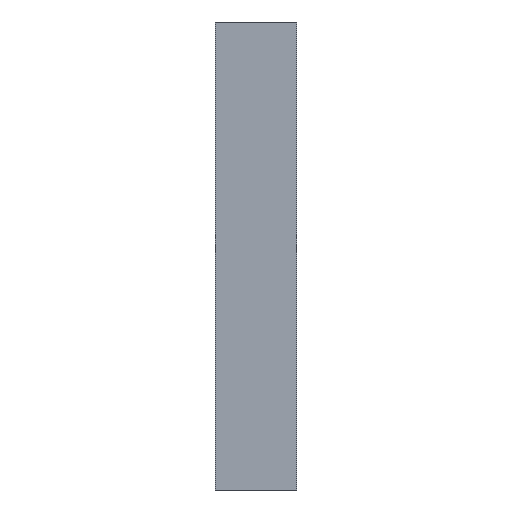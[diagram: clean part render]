
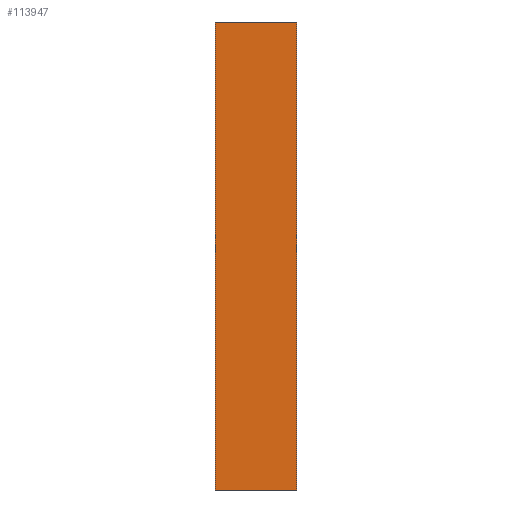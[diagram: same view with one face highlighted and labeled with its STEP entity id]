
A CAD part, front view. The second image highlights one B-rep face of the part: STEP entity #113947.
In plain terms, the highlighted planar face has unit normal (0, -1, 0).
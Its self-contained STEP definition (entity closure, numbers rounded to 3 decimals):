
#1=DIRECTION('',(1.,0.,0.));
#2=VECTOR('',#1,80.);
#3=CARTESIAN_POINT('',(-40.,101.9,69.93));
#4=LINE('',#3,#2);
#5=DIRECTION('',(0.,0.,-1.));
#6=VECTOR('',#5,460.);
#7=CARTESIAN_POINT('',(40.,101.9,69.93));
#8=LINE('',#7,#6);
#9=DIRECTION('',(-1.,0.,0.));
#10=VECTOR('',#9,80.);
#11=CARTESIAN_POINT('',(40.,101.9,-390.07));
#12=LINE('',#11,#10);
#13=DIRECTION('',(0.,0.,1.));
#14=VECTOR('',#13,460.);
#15=CARTESIAN_POINT('',(-40.,101.9,-390.07));
#16=LINE('',#15,#14);
#113802=CARTESIAN_POINT('',(-40.,101.9,69.93));
#113803=CARTESIAN_POINT('',(40.,101.9,69.93));
#113804=VERTEX_POINT('',#113802);
#113805=VERTEX_POINT('',#113803);
#113806=CARTESIAN_POINT('',(40.,101.9,-390.07));
#113807=VERTEX_POINT('',#113806);
#113808=CARTESIAN_POINT('',(-40.,101.9,-390.07));
#113809=VERTEX_POINT('',#113808);
#113932=CARTESIAN_POINT('',(0.,101.9,-0.07));
#113933=DIRECTION('',(0.,-1.,0.));
#113934=DIRECTION('',(0.,0.,-1.));
#113935=AXIS2_PLACEMENT_3D('',#113932,#113933,#113934);
#113936=PLANE('',#113935);
#113938=ORIENTED_EDGE('',*,*,#113937,.T.);
#113940=ORIENTED_EDGE('',*,*,#113939,.T.);
#113942=ORIENTED_EDGE('',*,*,#113941,.T.);
#113944=ORIENTED_EDGE('',*,*,#113943,.T.);
#113945=EDGE_LOOP('',(#113938,#113940,#113942,#113944));
#113946=FACE_OUTER_BOUND('',#113945,.F.);
#113947=ADVANCED_FACE('',(#113946),#113936,.T.);
#113937=EDGE_CURVE('',#113804,#113805,#4,.T.);
#113939=EDGE_CURVE('',#113805,#113807,#8,.T.);
#113941=EDGE_CURVE('',#113807,#113809,#12,.T.);
#113943=EDGE_CURVE('',#113809,#113804,#16,.T.);
